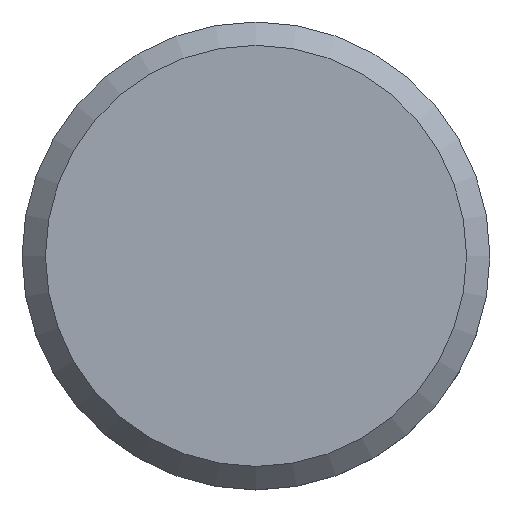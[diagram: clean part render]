
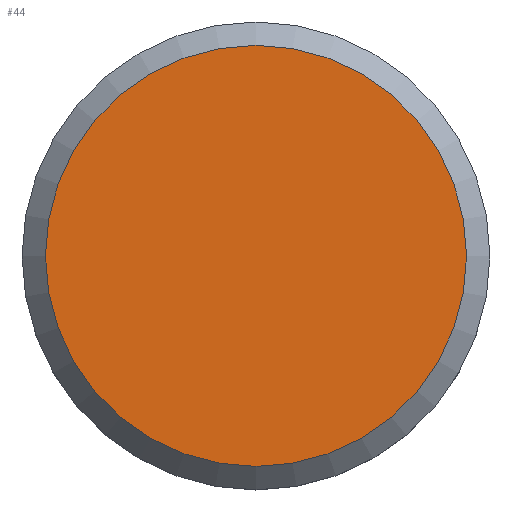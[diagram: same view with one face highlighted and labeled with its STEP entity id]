
A CAD part, top view. The second image highlights one B-rep face of the part: STEP entity #44.
In plain terms, the highlighted planar face has unit normal (0, 0, 1).
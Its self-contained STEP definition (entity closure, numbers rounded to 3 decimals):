
#23 = VERTEX_POINT ( 'NONE', #89 ) ;
#39 = CARTESIAN_POINT ( 'NONE',  ( 0., 0., 0. ) ) ;
#44 = ADVANCED_FACE ( 'NONE', ( #125 ), #59, .F. ) ;
#46 = AXIS2_PLACEMENT_3D ( 'NONE', #84, #187, #130 ) ;
#59 = PLANE ( 'NONE',  #74 ) ;
#74 = AXIS2_PLACEMENT_3D ( 'NONE', #39, #143, #144 ) ;
#84 = CARTESIAN_POINT ( 'NONE',  ( 0., 0., 0. ) ) ;
#89 = CARTESIAN_POINT ( 'NONE',  ( 4.5, 0., 0. ) ) ;
#90 = EDGE_LOOP ( 'NONE', ( #160 ) ) ;
#103 = EDGE_CURVE ( 'NONE', #23, #23, #155, .T. ) ;
#125 = FACE_OUTER_BOUND ( 'NONE', #90, .T. ) ;
#130 = DIRECTION ( 'NONE',  ( 1., 0., 0. ) ) ;
#143 = DIRECTION ( 'NONE',  ( 0., 0., -1. ) ) ;
#144 = DIRECTION ( 'NONE',  ( -1., 0., 0. ) ) ;
#155 = CIRCLE ( 'NONE', #46, 4.5 ) ;
#160 = ORIENTED_EDGE ( 'NONE', *, *, #103, .T. ) ;
#187 = DIRECTION ( 'NONE',  ( 0., 0., 1. ) ) ;
